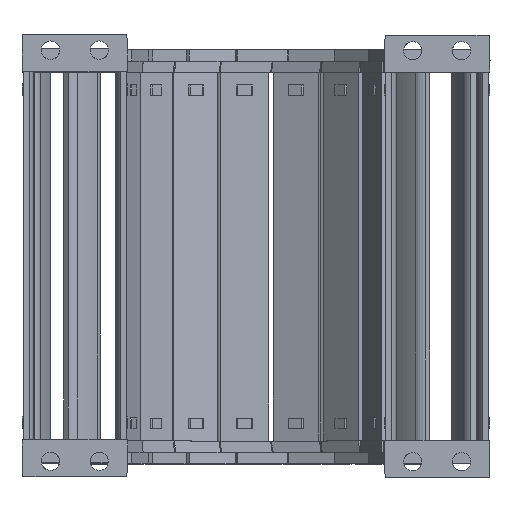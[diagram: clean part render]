
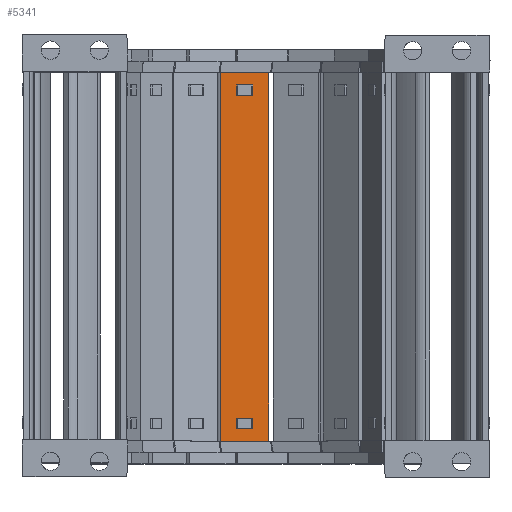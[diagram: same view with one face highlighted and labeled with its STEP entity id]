
A CAD part, top view. The second image highlights one B-rep face of the part: STEP entity #5341.
In plain terms, the highlighted planar face has unit normal (0.035, 0, 0.999).
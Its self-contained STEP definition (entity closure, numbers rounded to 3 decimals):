
#293=FACE_BOUND('',#15295,.T.);
#294=FACE_BOUND('',#15296,.T.);
#295=FACE_BOUND('',#15297,.T.);
#5341=ADVANCED_FACE('',(#293,#294,#295),#8414,.F.);
#8414=PLANE('',#76721);
#15295=EDGE_LOOP('',(#41093,#41094,#41095,#41096));
#15296=EDGE_LOOP('',(#41097,#41098,#41099,#41100));
#15297=EDGE_LOOP('',(#41101,#41102,#41103,#41104));
#21407=LINE('',#117715,#27585);
#21409=LINE('',#117719,#27587);
#21411=LINE('',#117723,#27589);
#21412=LINE('',#117725,#27590);
#21419=LINE('',#117740,#27597);
#21421=LINE('',#117744,#27599);
#21423=LINE('',#117748,#27601);
#21424=LINE('',#117750,#27602);
#21425=LINE('',#117752,#27603);
#21426=LINE('',#117755,#27604);
#21427=LINE('',#117757,#27605);
#21428=LINE('',#117759,#27606);
#27585=VECTOR('',#90400,1.);
#27587=VECTOR('',#90404,1.);
#27589=VECTOR('',#90408,1.);
#27590=VECTOR('',#90411,1.);
#27597=VECTOR('',#90422,1.);
#27599=VECTOR('',#90426,1.);
#27601=VECTOR('',#90430,1.);
#27602=VECTOR('',#90433,1.);
#27603=VECTOR('',#90436,1.);
#27604=VECTOR('',#90437,1.);
#27605=VECTOR('',#90438,1.);
#27606=VECTOR('',#90439,1.);
#41093=ORIENTED_EDGE('',*,*,#65015,.F.);
#41094=ORIENTED_EDGE('',*,*,#65013,.F.);
#41095=ORIENTED_EDGE('',*,*,#65011,.T.);
#41096=ORIENTED_EDGE('',*,*,#65016,.T.);
#41097=ORIENTED_EDGE('',*,*,#65027,.F.);
#41098=ORIENTED_EDGE('',*,*,#65025,.T.);
#41099=ORIENTED_EDGE('',*,*,#65023,.T.);
#41100=ORIENTED_EDGE('',*,*,#65028,.F.);
#41101=ORIENTED_EDGE('',*,*,#65029,.F.);
#41102=ORIENTED_EDGE('',*,*,#65030,.F.);
#41103=ORIENTED_EDGE('',*,*,#65031,.T.);
#41104=ORIENTED_EDGE('',*,*,#65032,.T.);
#56103=VERTEX_POINT('',#117712);
#56104=VERTEX_POINT('',#117714);
#56105=VERTEX_POINT('',#117718);
#56106=VERTEX_POINT('',#117722);
#56111=VERTEX_POINT('',#117737);
#56112=VERTEX_POINT('',#117739);
#56113=VERTEX_POINT('',#117743);
#56114=VERTEX_POINT('',#117747);
#56115=VERTEX_POINT('',#117753);
#56116=VERTEX_POINT('',#117754);
#56117=VERTEX_POINT('',#117756);
#56118=VERTEX_POINT('',#117758);
#65011=EDGE_CURVE('',#56103,#56104,#21407,.T.);
#65013=EDGE_CURVE('',#56103,#56105,#21409,.T.);
#65015=EDGE_CURVE('',#56105,#56106,#21411,.T.);
#65016=EDGE_CURVE('',#56104,#56106,#21412,.T.);
#65023=EDGE_CURVE('',#56111,#56112,#21419,.T.);
#65025=EDGE_CURVE('',#56113,#56111,#21421,.T.);
#65027=EDGE_CURVE('',#56113,#56114,#21423,.T.);
#65028=EDGE_CURVE('',#56114,#56112,#21424,.T.);
#65029=EDGE_CURVE('',#56115,#56116,#21425,.T.);
#65030=EDGE_CURVE('',#56117,#56115,#21426,.T.);
#65031=EDGE_CURVE('',#56117,#56118,#21427,.T.);
#65032=EDGE_CURVE('',#56118,#56116,#21428,.T.);
#76721=AXIS2_PLACEMENT_3D('',#117760,#90440,#90441);
#90400=DIRECTION('',(0.,1.,0.));
#90404=DIRECTION('',(0.999,0.,-0.035));
#90408=DIRECTION('',(0.,1.,0.));
#90411=DIRECTION('',(0.999,0.,-0.035));
#90422=DIRECTION('',(0.,-1.,0.));
#90426=DIRECTION('',(0.999,0.,-0.035));
#90430=DIRECTION('',(0.,-1.,0.));
#90433=DIRECTION('',(0.999,0.,-0.035));
#90436=DIRECTION('',(0.,1.,0.));
#90437=DIRECTION('',(-0.999,0.,0.035));
#90438=DIRECTION('',(0.,1.,0.));
#90439=DIRECTION('',(-0.999,0.,0.035));
#90440=DIRECTION('',(-0.035,0.,-0.999));
#90441=DIRECTION('',(-0.999,0.,0.035));
#117712=CARTESIAN_POINT('',(-65.615,-116.5,-62.316));
#117714=CARTESIAN_POINT('',(-65.615,-113.,-62.316));
#117715=CARTESIAN_POINT('',(-65.615,-63.26,-62.316));
#117718=CARTESIAN_POINT('',(-60.267,-116.5,-62.503));
#117719=CARTESIAN_POINT('',(-65.615,-116.5,-62.316));
#117722=CARTESIAN_POINT('',(-60.267,-113.,-62.503));
#117723=CARTESIAN_POINT('',(-60.267,-95.,-62.503));
#117725=CARTESIAN_POINT('',(-65.615,-113.,-62.316));
#117737=CARTESIAN_POINT('',(-60.267,-4.,-62.503));
#117739=CARTESIAN_POINT('',(-60.267,-7.5,-62.503));
#117740=CARTESIAN_POINT('',(-60.267,-4.,-62.503));
#117743=CARTESIAN_POINT('',(-65.615,-4.,-62.316));
#117744=CARTESIAN_POINT('',(-65.615,-4.,-62.316));
#117747=CARTESIAN_POINT('',(-65.615,-7.5,-62.316));
#117748=CARTESIAN_POINT('',(-65.615,-4.,-62.316));
#117750=CARTESIAN_POINT('',(-65.615,-7.5,-62.316));
#117752=CARTESIAN_POINT('',(-70.836,-25.26,-62.134));
#117753=CARTESIAN_POINT('',(-70.836,-120.5,-62.134));
#117754=CARTESIAN_POINT('',(-70.836,0.,-62.134));
#117755=CARTESIAN_POINT('',(-73.083,-120.5,-62.056));
#117756=CARTESIAN_POINT('',(-55.046,-120.5,-62.685));
#117757=CARTESIAN_POINT('',(-55.046,-25.5,-62.685));
#117758=CARTESIAN_POINT('',(-55.046,0.,-62.685));
#117759=CARTESIAN_POINT('',(-55.046,0.,-62.685));
#117760=CARTESIAN_POINT('',(-52.887,31.74,-62.761));
